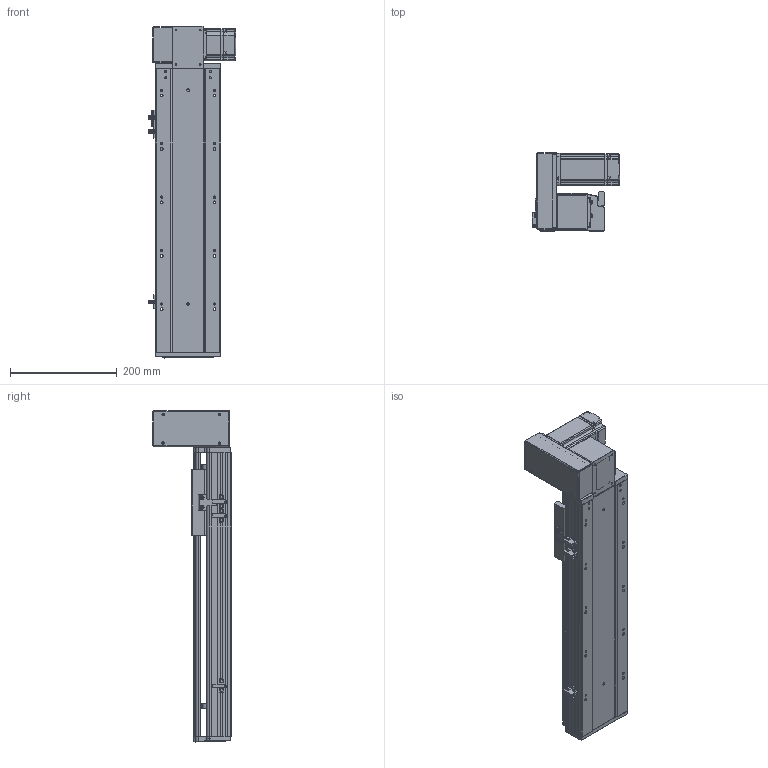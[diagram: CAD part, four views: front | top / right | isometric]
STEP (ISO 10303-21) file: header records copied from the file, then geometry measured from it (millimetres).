
FILE_DESCRIPTION (( 'STEP AP203' ), '1' );
FILE_NAME ('RY120-T-300-UL.SLDASM_300.step', '2021-03-01T05:34:47', ( '盈信电脑' ), ( '东莞市道滘镇水果街19号' ), 'SwSTEP 2.0', 'SolidWorks 2012', '' );
FILE_SCHEMA (( 'CONFIG_CONTROL_DESIGN' ));
Products named in the file (18): RY120-T-300-UL.SLDASM_300; RY120-T翋肮祭謫裔啣; 滅袉蝶18-10; RY120-T主同步轮轴承压盖; RY120-T蹟翐M4; RY120-T萇儂欶; 侂狟400W侜督萇儂; 15; RY120-T萇儂假蚾啣; RY120-T翋肮祭盓傅釱; RY120-T肮祭湍揤踡輸2; RY120外置感应片(140共用）; RY120-T肮祭湍揤踡輸1; RY120綴裔啣; 覜茼ん672; RY120-T-300-UL倰第奻裔啣_300; RY120肮祭湍臏賑輸; RY120-T-300-UL倰第菁釱
Assembly tree (23 placements, depth 3):
  RY120-T-300-UL.SLDASM_300
    RY120-T-300-UL倰第菁釱
    RY120-T-300-UL倰第奻裔啣_300
    RY120肮祭湍臏賑輸
    RY120綴裔啣
    覜茼ん672  x3
    RY120外置感应片(140共用）
    RY120-T肮祭湍揤踡輸1
    RY120-T肮祭湍揤踡輸2
    RY120-T翋肮祭盓傅釱
    RY120-T萇儂假蚾啣
    侂狟400W侜督萇儂
      15
    RY120-T主同步轮轴承压盖
    滅袉蝶18-10  x2
    RY120-T萇儂欶
    RY120-T蹟翐M4  x4
    RY120-T翋肮祭謫裔啣
Bounding box: 164.2 x 146 x 621 mm (x, y, z)
Volume: 2083702.8 mm3; surface area: 743451.9 mm2
Topology: 23 solids, 23 shells, 2640 faces, 7176 edges, 4624 vertices
Faces by surface type: plane 1392, cylinder 958, cone 201, bspline 89
Entity records: 83382 total; most frequent: CARTESIAN_POINT 20720, ORIENTED_EDGE 12864, DIRECTION 12202, EDGE_CURVE 6432, VERTEX_POINT 4211, LINE 4120, VECTOR 4120, AXIS2_PLACEMENT_3D 4041
